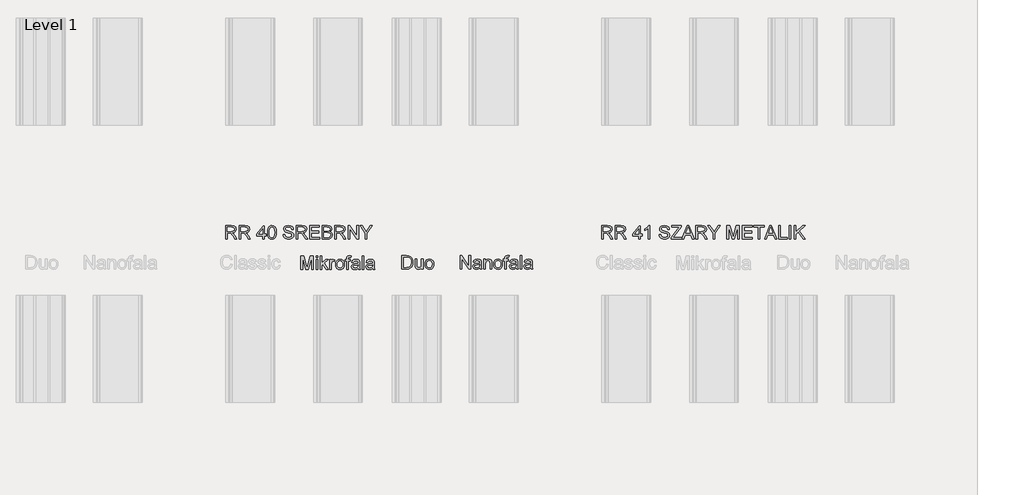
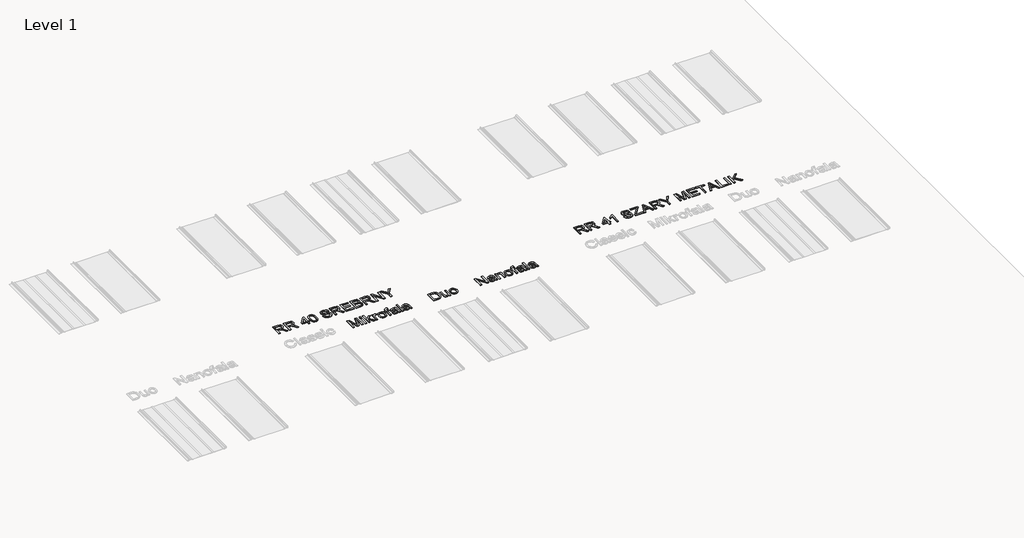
# One storey, part 15 of 22: 5 proxies.
"""IFC4 building model written with IfcOpenShell, lengths in millimetres."""

from ifc_helpers import new_model, si_unit, frame, origin, place, context, project, spatial, polyline, outline, extrude, element, save

model = new_model("IFC4")

# Units and contexts
model_context = context("Model", 3, world=origin())
ifc_project = project(units=[si_unit("LENGTHUNIT", "METRE", prefix="MILLI")], contexts=[model_context])

# Site, building, storey
site = spatial("IfcSite", under=ifc_project)
building = spatial("IfcBuilding", under=site)
storey = spatial("IfcBuildingStorey", under=building, Name="Level 1", Elevation=0.0)

# Proxies
placement = place(None, origin())
element("IfcBuildingElementProxy", 1, Name="150", ObjectType="150", at=placement, inside=storey, context=model_context, shape_type="SweptSolid", body=[
    extrude(outline(polyline([(504.3345041, -1975.281387), (504.3345041, -1824.5969218), (536.6345432, -1824.5969218), (567.5366308, -1930.8044538), (573.7906247, -1952.9877381), (580.5228653, -1928.9650438), (610.8363417, -1824.5969218), (643.2467454, -1824.5969218), (643.2467454, -1975.281387), (624.4111873, -1975.281387), (624.4111873, -1843.4324799), (586.55613, -1975.281387), (561.0619077, -1975.281387), (523.1700622, -1843.4324799), (523.1700622, -1975.281387), (504.3345041, -1975.281387)])), frame((0.0, 0.0, 600.0), z_axis=(0.0, 0.0, 1.0), x_axis=(1.0, 0.0, 0.0)), (0.0, 0.0, 1.0), 10.0),
    extrude(outline(polyline([(673.8545274, -1843.4324799), (673.8545274, -1824.5969218), (692.6900856, -1824.5969218), (692.6900856, -1843.4324799), (673.8545274, -1843.4324799)])), frame((0.0, 0.0, 600.0), z_axis=(0.0, 0.0, 1.0), x_axis=(1.0, 0.0, 0.0)), (0.0, 0.0, 1.0), 10.0),
    extrude(outline(polyline([(673.8545274, -1975.281387), (673.8545274, -1864.6224829), (692.6900856, -1864.6224829), (692.6900856, -1975.281387), (673.8545274, -1975.281387)])), frame((0.0, 0.0, 600.0), z_axis=(0.0, 0.0, 1.0), x_axis=(1.0, 0.0, 0.0)), (0.0, 0.0, 1.0), 10.0),
    extrude(outline(polyline([(720.9434228, -1975.281387), (720.9434228, -1824.5969218), (739.778981, -1824.5969218), (739.778981, -1905.5677489), (782.011834, -1864.6224829), (808.0578793, -1864.6224829), (765.2732032, -1906.0827837), (810.412324, -1975.281387), (788.4129807, -1975.281387), (751.771934, -1919.1793827), (739.778981, -1930.841242), (739.778981, -1975.281387), (720.9434228, -1975.281387)])), frame((0.0, 0.0, 600.0), z_axis=(0.0, 0.0, 1.0), x_axis=(1.0, 0.0, 0.0)), (0.0, 0.0, 1.0), 10.0),
    extrude(outline(polyline([(826.8934374, -1975.281387), (826.8934374, -1864.6224829), (843.3745508, -1864.6224829), (843.3745508, -1880.9932316), (855.0731983, -1865.9100698), (866.8454221, -1862.2680381), (885.7545567, -1868.0805736), (879.4637745, -1884.9663572), (866.2200227, -1881.1035962), (855.5698389, -1884.8192044), (848.7824161, -1895.1199003), (845.7289956, -1917.1192436), (845.7289956, -1975.281387), (826.8934374, -1975.281387)])), frame((0.0, 0.0, 600.0), z_axis=(0.0, 0.0, 1.0), x_axis=(1.0, 0.0, 0.0)), (0.0, 0.0, 1.0), 10.0),
    extrude(outline(polyline([(892.817891, -1919.9519349), (896.8921841, -1893.2712932), (909.1150633, -1874.5185085), (924.2166192, -1865.3306557), (942.2980193, -1862.2680381), (962.0854721, -1865.9974418), (977.8906023, -1877.185653), (988.251079, -1894.9497548), (991.7045713, -1918.4068306), (990.177861, -1937.4355268), (985.5977301, -1951.9208803), (978.097536, -1962.7688007), (967.8106357, -1970.8851972), (955.5923549, -1975.9481731), (942.2980193, -1977.6358318), (922.2714432, -1973.9202236), (906.4847071, -1962.7733992), (896.234595, -1944.6368168), (892.817891, -1919.9519349)]), holes=[polyline([(911.6534491, -1919.9151467), (913.8331499, -1936.9618787), (920.3722524, -1949.1065831), (930.2130958, -1956.376851), (942.2980193, -1958.8002736), (954.3277606, -1956.3630554), (964.1502098, -1949.0514008), (970.6893123, -1936.745748), (972.8690131, -1919.3265355), (970.6755167, -1902.7764443), (964.0950275, -1890.7972868), (954.2587827, -1883.5270189), (942.2980193, -1881.1035962), (930.2130958, -1883.5178218), (920.3722524, -1890.7604986), (913.8331499, -1902.8776118), (911.6534491, -1919.9151467)])]), frame((0.0, 0.0, 600.0), z_axis=(0.0, 0.0, 1.0), x_axis=(1.0, 0.0, 0.0)), (0.0, 0.0, 1.0), 10.0),
    extrude(outline(polyline([(1017.6034637, -1975.281387), (1017.6034637, -1883.458041), (1001.1223503, -1883.458041), (1001.1223503, -1864.6224829), (1017.6034637, -1864.6224829), (1017.6034637, -1853.4756584), (1019.5900265, -1837.7670972), (1029.2285348, -1826.5466964), (1048.2112457, -1822.242477), (1065.3913349, -1824.3026162), (1062.6322199, -1841.960952), (1051.7797011, -1841.0780352), (1039.9155067, -1844.2050321), (1036.4390219, -1855.8668914), (1036.4390219, -1864.6224829), (1057.6290248, -1864.6224829), (1057.6290248, -1883.458041), (1036.4390219, -1883.458041), (1036.4390219, -1975.281387), (1017.6034637, -1975.281387)])), frame((0.0, 0.0, 600.0), z_axis=(0.0, 0.0, 1.0), x_axis=(1.0, 0.0, 0.0)), (0.0, 0.0, 1.0), 10.0),
    extrude(outline(polyline([(1144.7434813, -1961.1547184), (1126.4781402, -1973.9202236), (1106.2998128, -1977.6358318), (1090.5590619, -1975.4009487), (1078.9477864, -1968.6962993), (1071.7878831, -1958.5151651), (1069.4012486, -1945.8508274), (1073.0064922, -1930.9516066), (1082.4794536, -1920.1358759), (1095.6680231, -1913.9554584), (1111.9651955, -1911.1227671), (1144.6331167, -1904.6480439), (1144.7434813, -1900.4541892), (1143.4466972, -1892.0480856), (1139.5563451, -1886.5482498), (1130.8559359, -1882.4647596), (1118.7342242, -1881.1035962), (1099.6779368, -1884.7272339), (1090.5912516, -1897.5847096), (1071.7556934, -1895.2302649), (1079.9042796, -1876.8361651), (1096.3118166, -1866.0572226), (1121.1622454, -1862.2680381), (1143.9893232, -1865.6157643), (1156.8835871, -1874.0218678), (1162.6593344, -1886.8057672), (1163.5790394, -1903.2868806), (1163.5790394, -1926.7209636), (1164.5355326, -1959.4440671), (1168.2879289, -1975.281387), (1149.4523708, -1975.281387), (1144.7434813, -1961.1547184)]), holes=[polyline([(1144.7434813, -1923.4836021), (1114.3564285, -1929.2593494), (1098.1512266, -1932.31277), (1090.8119808, -1937.2791769), (1088.2368068, -1944.5264522), (1093.8470072, -1954.7167835), (1110.3097265, -1958.8002736), (1129.3660139, -1954.2937192), (1141.6532725, -1943.386018), (1144.6331167, -1928.817891), (1144.7434813, -1923.4836021)])]), frame((0.0, 0.0, 600.0), z_axis=(0.0, 0.0, 1.0), x_axis=(1.0, 0.0, 0.0)), (0.0, 0.0, 1.0), 10.0),
    extrude(outline(polyline([(1189.4779319, -1975.281387), (1189.4779319, -1824.5969218), (1208.31349, -1824.5969218), (1208.31349, -1975.281387), (1189.4779319, -1975.281387)])), frame((0.0, 0.0, 600.0), z_axis=(0.0, 0.0, 1.0), x_axis=(1.0, 0.0, 0.0)), (0.0, 0.0, 1.0), 10.0),
    extrude(outline(polyline([(1307.2001703, -1961.1547184), (1288.9348293, -1973.9202236), (1268.7565018, -1977.6358318), (1253.015751, -1975.4009487), (1241.4044755, -1968.6962993), (1234.2445722, -1958.5151651), (1231.8579377, -1945.8508274), (1235.4631813, -1930.9516066), (1244.9361426, -1920.1358759), (1258.1247122, -1913.9554584), (1274.4218846, -1911.1227671), (1307.0898057, -1904.6480439), (1307.2001703, -1900.4541892), (1305.9033863, -1892.0480856), (1302.0130342, -1886.5482498), (1293.312625, -1882.4647596), (1281.1909133, -1881.1035962), (1262.1346259, -1884.7272339), (1253.0479406, -1897.5847096), (1234.2123825, -1895.2302649), (1242.3609687, -1876.8361651), (1258.7685057, -1866.0572226), (1283.6189344, -1862.2680381), (1306.4460122, -1865.6157643), (1319.3402762, -1874.0218678), (1325.1160235, -1886.8057672), (1326.0357285, -1903.2868806), (1326.0357285, -1926.7209636), (1326.9922217, -1959.4440671), (1330.744618, -1975.281387), (1311.9090599, -1975.281387), (1307.2001703, -1961.1547184)]), holes=[polyline([(1307.2001703, -1923.4836021), (1276.8131175, -1929.2593494), (1260.6079156, -1932.31277), (1253.2686698, -1937.2791769), (1250.6934959, -1944.5264522), (1256.3036963, -1954.7167835), (1272.7664156, -1958.8002736), (1291.8227029, -1954.2937192), (1304.1099616, -1943.386018), (1307.0898057, -1928.817891), (1307.2001703, -1923.4836021)])]), frame((0.0, 0.0, 600.0), z_axis=(0.0, 0.0, 1.0), x_axis=(1.0, 0.0, 0.0)), (0.0, 0.0, 1.0), 10.0),
])
element("IfcBuildingElementProxy", 2, Name="150", ObjectType="150", at=placement, inside=storey, context=model_context, shape_type="SweptSolid", body=[
    extrude(outline(polyline([(1632.4192925, -1972.1592468), (1632.4192925, -1821.4747816), (1684.4010184, -1821.4747816), (1711.2931923, -1823.6452853), (1733.4396884, -1834.4242278), (1743.8599459, -1845.902146), (1751.2819651, -1860.1759675), (1755.7241402, -1876.9697805), (1757.2048653, -1896.0076738), (1753.1949515, -1926.4131207), (1742.8942557, -1948.3572817), (1729.135469, -1962.0240978), (1711.1276454, -1969.5840728), (1686.902616, -1972.1592468), (1632.4192925, -1972.1592468)]), holes=[polyline([(1651.2548507, -1953.3236886), (1684.5849594, -1953.3236886), (1708.8283829, -1950.6013619), (1722.8078987, -1942.9126282), (1734.2674229, -1924.2058287), (1738.3693071, -1895.7133682), (1736.3597517, -1875.1855529), (1730.3310855, -1860.0288147), (1721.4237427, -1849.6177542), (1710.7781575, -1843.3269721), (1684.0699246, -1840.3103397), (1651.2548507, -1840.3103397), (1651.2548507, -1953.3236886)])]), frame((0.0, 0.0, 600.0), z_axis=(0.0, 0.0, 1.0), x_axis=(1.0, 0.0, 0.0)), (0.0, 0.0, 1.0), 10.0),
    extrude(outline(polyline([(1851.382656, -1972.1592468), (1851.382656, -1953.1397476), (1836.630588, -1969.1702056), (1817.3903597, -1974.5136916), (1799.6768416, -1970.7612952), (1787.4631594, -1961.3435161), (1781.8529589, -1947.4743649), (1780.749313, -1929.9631819), (1780.749313, -1861.5003426), (1799.5848711, -1861.5003426), (1799.5848711, -1921.0972259), (1800.7253053, -1940.300666), (1808.1749157, -1951.5762492), (1822.2096138, -1955.6781334), (1837.9365691, -1951.4842787), (1848.3292355, -1940.0615427), (1851.382656, -1919.0738749), (1851.382656, -1861.5003426), (1870.2182142, -1861.5003426), (1870.2182142, -1972.1592468), (1851.382656, -1972.1592468)])), frame((0.0, 0.0, 600.0), z_axis=(0.0, 0.0, 1.0), x_axis=(1.0, 0.0, 0.0)), (0.0, 0.0, 1.0), 10.0),
    extrude(outline(polyline([(1891.4082171, -1916.8297947), (1895.4825102, -1890.149153), (1907.7053895, -1871.3963683), (1922.8069454, -1862.2085155), (1940.8883455, -1859.1458979), (1960.6757983, -1862.8753016), (1976.4809285, -1874.0635128), (1986.8414052, -1891.8276146), (1990.2948974, -1915.2846903), (1988.7681871, -1934.3133865), (1984.1880563, -1948.7987401), (1976.6878621, -1959.6466604), (1966.4009618, -1967.7630569), (1954.1826811, -1972.8260329), (1940.8883455, -1974.5136916), (1920.8617693, -1970.7980834), (1905.0750332, -1959.651259), (1894.8249211, -1941.5146766), (1891.4082171, -1916.8297947)]), holes=[polyline([(1910.2437753, -1916.7930065), (1912.4234761, -1933.8397385), (1918.9625785, -1945.9844428), (1928.8034219, -1953.2547108), (1940.8883455, -1955.6781334), (1952.9180867, -1953.2409152), (1962.740536, -1945.9292605), (1969.2796384, -1933.6236078), (1971.4593393, -1916.2043953), (1969.2658429, -1899.6543041), (1962.6853537, -1887.6751466), (1952.8491088, -1880.4048787), (1940.8883455, -1877.981456), (1928.8034219, -1880.3956816), (1918.9625785, -1887.6383584), (1912.4234761, -1899.7554716), (1910.2437753, -1916.7930065)])]), frame((0.0, 0.0, 600.0), z_axis=(0.0, 0.0, 1.0), x_axis=(1.0, 0.0, 0.0)), (0.0, 0.0, 1.0), 10.0),
])
element("IfcBuildingElementProxy", 3, Name="150", ObjectType="150", at=placement, inside=storey, context=model_context, shape_type="SweptSolid", body=[
    extrude(outline(polyline([(2283.2193428, -1972.1592468), (2283.2193428, -1821.4747816), (2303.3792761, -1821.4747816), (2382.1060231, -1940.852489), (2382.1060231, -1821.4747816), (2400.9415812, -1821.4747816), (2400.9415812, -1972.1592468), (2380.7816479, -1972.1592468), (2302.0549009, -1852.7447512), (2302.0549009, -1972.1592468), (2283.2193428, -1972.1592468)])), frame((0.0, 0.0, 600.0), z_axis=(0.0, 0.0, 1.0), x_axis=(1.0, 0.0, 0.0)), (0.0, 0.0, 1.0), 10.0),
    extrude(outline(polyline([(2502.1827063, -1958.0325782), (2483.9173653, -1970.7980834), (2463.7390378, -1974.5136916), (2447.998287, -1972.2788084), (2436.3870115, -1965.5741591), (2429.2271081, -1955.3930249), (2426.8404737, -1942.7286872), (2430.4457173, -1927.8294664), (2439.9186786, -1917.0137357), (2453.1072482, -1910.8333182), (2469.4044205, -1908.0006268), (2502.0723417, -1901.5259037), (2502.1827063, -1897.332049), (2500.8859223, -1888.9259454), (2496.9955702, -1883.4261096), (2488.295161, -1879.3426194), (2476.1734493, -1877.981456), (2457.1171619, -1881.6050937), (2448.0304766, -1894.4625694), (2429.1949185, -1892.1081246), (2437.3435047, -1873.7140249), (2453.7510417, -1862.9350824), (2478.6014704, -1859.1458979), (2501.4285482, -1862.493624), (2514.3228122, -1870.8997276), (2520.0985595, -1883.683627), (2521.0182645, -1900.1647403), (2521.0182645, -1923.5988234), (2521.9747577, -1956.3219269), (2525.727154, -1972.1592468), (2506.8915959, -1972.1592468), (2502.1827063, -1958.0325782)]), holes=[polyline([(2502.1827063, -1920.3614619), (2471.7956535, -1926.1372092), (2455.5904516, -1929.1906298), (2448.2512058, -1934.1570367), (2445.6760319, -1941.404312), (2451.2862323, -1951.5946433), (2467.7489516, -1955.6781334), (2486.8052389, -1951.171579), (2499.0924976, -1940.2638778), (2502.0723417, -1925.6957508), (2502.1827063, -1920.3614619)])]), frame((0.0, 0.0, 600.0), z_axis=(0.0, 0.0, 1.0), x_axis=(1.0, 0.0, 0.0)), (0.0, 0.0, 1.0), 10.0),
    extrude(outline(polyline([(2546.9171569, -1972.1592468), (2546.9171569, -1861.5003426), (2565.7527151, -1861.5003426), (2565.7527151, -1876.9513864), (2580.1552952, -1863.59727), (2599.8185878, -1859.1458979), (2617.6056823, -1862.7327473), (2629.7457881, -1872.1505264), (2635.3927768, -1886.0012835), (2636.3860582, -1904.2114423), (2636.3860582, -1972.1592468), (2617.5505, -1972.1592468), (2617.5505, -1906.749828), (2615.3799962, -1890.0847737), (2607.7096566, -1881.2739999), (2594.7786045, -1877.981456), (2583.7467432, -1879.8300631), (2574.3427597, -1885.3758841), (2567.9002262, -1896.0904472), (2565.7527151, -1913.4452804), (2565.7527151, -1972.1592468), (2546.9171569, -1972.1592468)])), frame((0.0, 0.0, 600.0), z_axis=(0.0, 0.0, 1.0), x_axis=(1.0, 0.0, 0.0)), (0.0, 0.0, 1.0), 10.0),
    extrude(outline(polyline([(2657.5760611, -1916.8297947), (2661.6503542, -1890.149153), (2673.8732335, -1871.3963683), (2688.9747894, -1862.2085155), (2707.0561894, -1859.1458979), (2726.8436422, -1862.8753016), (2742.6487725, -1874.0635128), (2753.0092492, -1891.8276146), (2756.4627414, -1915.2846903), (2754.9360311, -1934.3133865), (2750.3559003, -1948.7987401), (2742.8557061, -1959.6466604), (2732.5688058, -1967.7630569), (2720.350525, -1972.8260329), (2707.0561894, -1974.5136916), (2687.0296133, -1970.7980834), (2671.2428772, -1959.651259), (2660.9927651, -1941.5146766), (2657.5760611, -1916.8297947)]), holes=[polyline([(2676.4116192, -1916.7930065), (2678.5913201, -1933.8397385), (2685.1304225, -1945.9844428), (2694.9712659, -1953.2547108), (2707.0561894, -1955.6781334), (2719.0859307, -1953.2409152), (2728.9083799, -1945.9292605), (2735.4474824, -1933.6236078), (2737.6271832, -1916.2043953), (2735.4336868, -1899.6543041), (2728.8531976, -1887.6751466), (2719.0169528, -1880.4048787), (2707.0561894, -1877.981456), (2694.9712659, -1880.3956816), (2685.1304225, -1887.6383584), (2678.5913201, -1899.7554716), (2676.4116192, -1916.7930065)])]), frame((0.0, 0.0, 600.0), z_axis=(0.0, 0.0, 1.0), x_axis=(1.0, 0.0, 0.0)), (0.0, 0.0, 1.0), 10.0),
    extrude(outline(polyline([(2782.3616338, -1972.1592468), (2782.3616338, -1880.3359008), (2765.8805205, -1880.3359008), (2765.8805205, -1861.5003426), (2782.3616338, -1861.5003426), (2782.3616338, -1850.3535182), (2784.3481966, -1834.644957), (2793.9867049, -1823.4245561), (2812.9694158, -1819.1203368), (2830.149505, -1821.180476), (2827.3903901, -1838.8388117), (2816.5378712, -1837.955895), (2804.6736769, -1841.0828919), (2801.197192, -1852.7447512), (2801.197192, -1861.5003426), (2822.3871949, -1861.5003426), (2822.3871949, -1880.3359008), (2801.197192, -1880.3359008), (2801.197192, -1972.1592468), (2782.3616338, -1972.1592468)])), frame((0.0, 0.0, 600.0), z_axis=(0.0, 0.0, 1.0), x_axis=(1.0, 0.0, 0.0)), (0.0, 0.0, 1.0), 10.0),
    extrude(outline(polyline([(2909.5016514, -1958.0325782), (2891.2363103, -1970.7980834), (2871.0579829, -1974.5136916), (2855.317232, -1972.2788084), (2843.7059565, -1965.5741591), (2836.5460532, -1955.3930249), (2834.1594188, -1942.7286872), (2837.7646623, -1927.8294664), (2847.2376237, -1917.0137357), (2860.4261932, -1910.8333182), (2876.7233656, -1908.0006268), (2909.3912868, -1901.5259037), (2909.5016514, -1897.332049), (2908.2048673, -1888.9259454), (2904.3145152, -1883.4261096), (2895.6141061, -1879.3426194), (2883.4923943, -1877.981456), (2864.436107, -1881.6050937), (2855.3494217, -1894.4625694), (2836.5138635, -1892.1081246), (2844.6624497, -1873.7140249), (2861.0699867, -1862.9350824), (2885.9204155, -1859.1458979), (2908.7474933, -1862.493624), (2921.6417572, -1870.8997276), (2927.4175045, -1883.683627), (2928.3372095, -1900.1647403), (2928.3372095, -1923.5988234), (2929.2937027, -1956.3219269), (2933.0460991, -1972.1592468), (2914.2105409, -1972.1592468), (2909.5016514, -1958.0325782)]), holes=[polyline([(2909.5016514, -1920.3614619), (2879.1145986, -1926.1372092), (2862.9093967, -1929.1906298), (2855.5701509, -1934.1570367), (2852.9949769, -1941.404312), (2858.6051773, -1951.5946433), (2875.0678966, -1955.6781334), (2894.124184, -1951.171579), (2906.4114426, -1940.2638778), (2909.3912868, -1925.6957508), (2909.5016514, -1920.3614619)])]), frame((0.0, 0.0, 600.0), z_axis=(0.0, 0.0, 1.0), x_axis=(1.0, 0.0, 0.0)), (0.0, 0.0, 1.0), 10.0),
    extrude(outline(polyline([(2954.236102, -1972.1592468), (2954.236102, -1821.4747816), (2973.0716601, -1821.4747816), (2973.0716601, -1972.1592468), (2954.236102, -1972.1592468)])), frame((0.0, 0.0, 600.0), z_axis=(0.0, 0.0, 1.0), x_axis=(1.0, 0.0, 0.0)), (0.0, 0.0, 1.0), 10.0),
    extrude(outline(polyline([(3071.9583404, -1958.0325782), (3053.6929994, -1970.7980834), (3033.514672, -1974.5136916), (3017.7739211, -1972.2788084), (3006.1626456, -1965.5741591), (2999.0027423, -1955.3930249), (2996.6161078, -1942.7286872), (3000.2213514, -1927.8294664), (3009.6943128, -1917.0137357), (3022.8828823, -1910.8333182), (3039.1800547, -1908.0006268), (3071.8479758, -1901.5259037), (3071.9583404, -1897.332049), (3070.6615564, -1888.9259454), (3066.7712043, -1883.4261096), (3058.0707951, -1879.3426194), (3045.9490834, -1877.981456), (3026.892796, -1881.6050937), (3017.8061108, -1894.4625694), (2998.9705526, -1892.1081246), (3007.1191388, -1873.7140249), (3023.5266758, -1862.9350824), (3048.3771046, -1859.1458979), (3071.2041824, -1862.493624), (3084.0984463, -1870.8997276), (3089.8741936, -1883.683627), (3090.7938986, -1900.1647403), (3090.7938986, -1923.5988234), (3091.7503918, -1956.3219269), (3095.5027881, -1972.1592468), (3076.66723, -1972.1592468), (3071.9583404, -1958.0325782)]), holes=[polyline([(3071.9583404, -1920.3614619), (3041.5712876, -1926.1372092), (3025.3660858, -1929.1906298), (3018.02684, -1934.1570367), (3015.451666, -1941.404312), (3021.0618664, -1951.5946433), (3037.5245857, -1955.6781334), (3056.580873, -1951.171579), (3068.8681317, -1940.2638778), (3071.8479758, -1925.6957508), (3071.9583404, -1920.3614619)])]), frame((0.0, 0.0, 600.0), z_axis=(0.0, 0.0, 1.0), x_axis=(1.0, 0.0, 0.0)), (0.0, 0.0, 1.0), 10.0),
])
element("IfcBuildingElementProxy", 4, Name="150 Blue", ObjectType="150 Blue", at=placement, inside=storey, context=model_context, shape_type="SweptSolid", body=[
    extrude(outline(polyline([(-336.4118342, -1635.6514112), (-336.4118342, -1484.966946), (-271.4806621, -1484.966946), (-241.3327325, -1489.032042), (-232.0529092, -1494.6606365), (-224.8516192, -1503.416228), (-220.2301016, -1514.2733454), (-218.6895957, -1526.2065176), (-221.2417771, -1541.0505561), (-228.8983211, -1553.3562089), (-241.8891541, -1562.3785148), (-260.4442022, -1567.3725129), (-249.7388361, -1575.4291286), (-234.4717333, -1594.8165097), (-209.3453931, -1635.6514112), (-231.2343718, -1635.6514112), (-250.8424821, -1604.4182298), (-265.0059389, -1583.7432617), (-274.9571469, -1573.9759947), (-283.9150735, -1570.3891452), (-294.8411687, -1569.7269577), (-317.576276, -1569.7269577), (-317.576276, -1635.6514112), (-336.4118342, -1635.6514112)]), holes=[polyline([(-317.576276, -1550.8913995), (-275.4169994, -1550.8913995), (-253.9142968, -1548.224255), (-241.7006145, -1539.6893927), (-237.5251539, -1526.9054934), (-239.5163152, -1517.7176406), (-245.4897991, -1510.3140154), (-255.7675023, -1505.4303819), (-270.6713217, -1503.8025041), (-317.576276, -1503.8025041), (-317.576276, -1550.8913995)])]), frame((0.0, 0.0, 600.0), z_axis=(0.0, 0.0, 1.0), x_axis=(1.0, 0.0, 0.0)), (0.0, 0.0, 1.0), 10.0),
    extrude(outline(polyline([(-185.727369, -1635.6514112), (-185.727369, -1484.966946), (-120.7961968, -1484.966946), (-90.6482673, -1489.032042), (-81.368444, -1494.6606365), (-74.1671539, -1503.416228), (-69.5456364, -1514.2733454), (-68.0051305, -1526.2065176), (-70.5573119, -1541.0505561), (-78.2138559, -1553.3562089), (-91.2046888, -1562.3785148), (-109.759737, -1567.3725129), (-99.0543709, -1575.4291286), (-83.7872681, -1594.8165097), (-58.6609278, -1635.6514112), (-80.5499066, -1635.6514112), (-100.1580169, -1604.4182298), (-114.3214737, -1583.7432617), (-124.2726817, -1573.9759947), (-133.2306083, -1570.3891452), (-144.1567035, -1569.7269577), (-166.8918108, -1569.7269577), (-166.8918108, -1635.6514112), (-185.727369, -1635.6514112)]), holes=[polyline([(-166.8918108, -1550.8913995), (-124.7325342, -1550.8913995), (-103.2298316, -1548.224255), (-91.0161493, -1539.6893927), (-86.8406887, -1526.9054934), (-88.83185, -1517.7176406), (-94.8053339, -1510.3140154), (-105.0830371, -1505.4303819), (-119.9868564, -1503.8025041), (-166.8918108, -1503.8025041), (-166.8918108, -1550.8913995)])]), frame((0.0, 0.0, 600.0), z_axis=(0.0, 0.0, 1.0), x_axis=(1.0, 0.0, 0.0)), (0.0, 0.0, 1.0), 10.0),
    extrude(outline(polyline([(77.9704452, -1635.6514112), (77.9704452, -1600.3347397), (9.6915469, -1600.3347397), (9.6915469, -1581.4991815), (82.6793347, -1487.3213907), (96.8060033, -1487.3213907), (96.8060033, -1581.4991815), (115.6415615, -1581.4991815), (115.6415615, -1600.3347397), (96.8060033, -1600.3347397), (96.8060033, -1635.6514112), (77.9704452, -1635.6514112)]), holes=[polyline([(77.9704452, -1581.4991815), (77.9704452, -1523.3002499), (32.8681126, -1581.4991815), (77.9704452, -1581.4991815)])]), frame((0.0, 0.0, 600.0), z_axis=(0.0, 0.0, 1.0), x_axis=(1.0, 0.0, 0.0)), (0.0, 0.0, 1.0), 10.0),
    extrude(outline(polyline([(132.1226749, -1561.5231892), (133.5068309, -1537.4039259), (137.6592989, -1518.168296), (144.5386922, -1503.5219941), (154.1036241, -1493.1707145), (166.4230724, -1487.0178881), (181.566015, -1484.966946), (203.5653583, -1489.8229883), (218.7588847, -1503.8208982), (227.5880526, -1526.1145471), (231.0093552, -1561.5231892), (229.6389947, -1585.5044967), (225.5279134, -1604.6941413), (218.6899068, -1619.3542388), (209.1387705, -1629.7469052), (196.7917311, -1635.9411183), (181.566015, -1638.005856), (161.9946929, -1634.4190065), (147.1322603, -1623.6584581), (135.8750712, -1598.1734329), (132.1226749, -1561.5231892)]), holes=[polyline([(150.958233, -1561.486401), (153.165525, -1591.1146971), (159.7874009, -1608.2625966), (169.6466384, -1616.4433725), (181.566015, -1619.1702978), (193.4853917, -1616.4341755), (203.3446291, -1608.2258084), (209.966505, -1591.0687119), (212.173797, -1561.486401), (210.0400814, -1532.5248909), (203.6389347, -1515.2436342), (193.7980913, -1506.6627866), (181.3452858, -1503.8025041), (169.5546679, -1506.3224958), (160.0817065, -1513.8824708), (153.2391014, -1532.2397823), (150.958233, -1561.486401)])]), frame((0.0, 0.0, 600.0), z_axis=(0.0, 0.0, 1.0), x_axis=(1.0, 0.0, 0.0)), (0.0, 0.0, 1.0), 10.0),
    extrude(outline(polyline([(306.3515878, -1583.8536263), (325.1871459, -1583.8536263), (331.2571988, -1602.7075785), (346.0828432, -1614.6269552), (368.6707978, -1619.1702978), (388.3524845, -1615.7306011), (401.0628074, -1606.2760339), (405.2382681, -1593.6392873), (402.1112711, -1581.8854576), (389.3089777, -1573.3322012), (361.8833749, -1566.1401082), (332.3608448, -1556.8510878), (316.3395839, -1542.8347838), (311.0604773, -1524.1095903), (312.6929537, -1513.0777289), (317.5903827, -1502.7908286), (325.6240058, -1494.0720253), (336.6650642, -1487.744455), (364.5873076, -1482.6125012), (394.3857492, -1487.9835783), (405.8084852, -1494.6146513), (414.251377, -1503.7657159), (419.5948629, -1514.8665551), (421.7193815, -1527.3469518), (402.8838233, -1527.3469518), (399.4257326, -1516.1081569), (392.2152454, -1507.9963589), (380.9488593, -1503.0851342), (365.3230716, -1501.4480593), (349.3294019, -1503.0667401), (338.3573214, -1507.9227825), (332.0113569, -1515.0688902), (329.8960355, -1523.5577673), (331.3951546, -1530.7958455), (335.892512, -1536.6175781), (366.6474468, -1547.1390031), (399.9775555, -1556.5935704), (410.7151113, -1563.4269785), (418.2061084, -1571.8606732), (422.6068968, -1581.8026841), (424.0738262, -1593.1610407), (422.3861676, -1604.7723162), (417.3231916, -1615.6938129), (409.091832, -1625.0931979), (397.8990223, -1632.1381381), (384.4391398, -1636.5389265), (369.4065617, -1638.005856), (350.9526812, -1636.4239634), (335.7637533, -1631.6782856), (323.6650342, -1623.7504286), (314.4817799, -1612.6219983), (308.5864709, -1599.0655468), (306.3515878, -1583.8536263)])), frame((0.0, 0.0, 600.0), z_axis=(0.0, 0.0, 1.0), x_axis=(1.0, 0.0, 0.0)), (0.0, 0.0, 1.0), 10.0),
    extrude(outline(polyline([(452.3271635, -1635.6514112), (452.3271635, -1484.966946), (517.2583356, -1484.966946), (547.4062651, -1489.032042), (556.6860884, -1494.6606365), (563.8873785, -1503.416228), (568.5088961, -1514.2733454), (570.0494019, -1526.2065176), (567.4972206, -1541.0505561), (559.8406765, -1553.3562089), (546.8498436, -1562.3785148), (528.2947955, -1567.3725129), (539.0001615, -1575.4291286), (554.2672643, -1594.8165097), (579.3936046, -1635.6514112), (557.5046259, -1635.6514112), (537.8965155, -1604.4182298), (523.7330587, -1583.7432617), (513.7818508, -1573.9759947), (504.8239242, -1570.3891452), (493.8978289, -1569.7269577), (471.1627216, -1569.7269577), (471.1627216, -1635.6514112), (452.3271635, -1635.6514112)]), holes=[polyline([(471.1627216, -1550.8913995), (513.3219983, -1550.8913995), (534.8247009, -1548.224255), (547.0383831, -1539.6893927), (551.2138438, -1526.9054934), (549.2226825, -1517.7176406), (543.2491986, -1510.3140154), (532.9714953, -1505.4303819), (518.067676, -1503.8025041), (471.1627216, -1503.8025041), (471.1627216, -1550.8913995)])]), frame((0.0, 0.0, 600.0), z_axis=(0.0, 0.0, 1.0), x_axis=(1.0, 0.0, 0.0)), (0.0, 0.0, 1.0), 10.0),
    extrude(outline(polyline([(603.0116287, -1635.6514112), (603.0116287, -1484.966946), (711.3160881, -1484.966946), (711.3160881, -1503.8025041), (621.8471868, -1503.8025041), (621.8471868, -1548.5369547), (706.6071985, -1548.5369547), (706.6071985, -1567.3725129), (621.8471868, -1567.3725129), (621.8471868, -1616.815853), (713.6705328, -1616.815853), (713.6705328, -1635.6514112), (603.0116287, -1635.6514112)])), frame((0.0, 0.0, 600.0), z_axis=(0.0, 0.0, 1.0), x_axis=(1.0, 0.0, 0.0)), (0.0, 0.0, 1.0), 10.0),
    extrude(outline(polyline([(741.9238701, -1635.6514112), (741.9238701, -1484.966946), (799.4238259, -1484.966946), (827.5851926, -1489.399924), (837.048957, -1495.02392), (844.2134588, -1503.0299519), (850.2283294, -1522.3069685), (845.169952, -1539.9101219), (829.8844551, -1553.2458443), (840.5576315, -1558.8192565), (848.4441018, -1567.2989365), (853.3139397, -1578.1238642), (854.937219, -1590.7330196), (850.5042409, -1610.9849234), (839.5229634, -1625.4058976), (823.1338205, -1633.0578431), (798.9823675, -1635.6514112), (741.9238701, -1635.6514112)]), holes=[polyline([(760.7594282, -1546.18251), (795.1563948, -1546.18251), (815.2427517, -1544.5638292), (827.3276752, -1537.5924654), (831.3927713, -1525.3236008), (827.6035867, -1513.0363422), (816.7510679, -1505.7706728), (792.5444326, -1503.8025041), (760.7594282, -1503.8025041), (760.7594282, -1546.18251)]), polyline([(760.7594282, -1616.815853), (799.3870377, -1616.815853), (813.3665535, -1616.080089), (825.1939597, -1611.9782048), (833.0298462, -1603.6088894), (836.1016608, -1590.9169606), (832.4964173, -1576.2752572), (820.8161639, -1567.5380598), (797.5476277, -1565.0180681), (760.7594282, -1565.0180681), (760.7594282, -1616.815853)])]), frame((0.0, 0.0, 600.0), z_axis=(0.0, 0.0, 1.0), x_axis=(1.0, 0.0, 0.0)), (0.0, 0.0, 1.0), 10.0),
    extrude(outline(polyline([(880.8361114, -1635.6514112), (880.8361114, -1484.966946), (945.7672836, -1484.966946), (975.9152131, -1489.032042), (985.1950364, -1494.6606365), (992.3963265, -1503.416228), (997.017844, -1514.2733454), (998.5583499, -1526.2065176), (996.0061686, -1541.0505561), (988.3496245, -1553.3562089), (975.3587916, -1562.3785148), (956.8037434, -1567.3725129), (967.5091095, -1575.4291286), (982.7762123, -1594.8165097), (1007.9025526, -1635.6514112), (986.0135739, -1635.6514112), (966.4054635, -1604.4182298), (952.2420067, -1583.7432617), (942.2907987, -1573.9759947), (933.3328722, -1570.3891452), (922.4067769, -1569.7269577), (899.6716696, -1569.7269577), (899.6716696, -1635.6514112), (880.8361114, -1635.6514112)]), holes=[polyline([(899.6716696, -1550.8913995), (941.8309462, -1550.8913995), (963.3336489, -1548.224255), (975.5473311, -1539.6893927), (979.7227917, -1526.9054934), (977.7316304, -1517.7176406), (971.7581465, -1510.3140154), (961.4804433, -1505.4303819), (946.576624, -1503.8025041), (899.6716696, -1503.8025041), (899.6716696, -1550.8913995)])]), frame((0.0, 0.0, 600.0), z_axis=(0.0, 0.0, 1.0), x_axis=(1.0, 0.0, 0.0)), (0.0, 0.0, 1.0), 10.0),
    extrude(outline(polyline([(1031.5205767, -1635.6514112), (1031.5205767, -1484.966946), (1051.68051, -1484.966946), (1130.407257, -1604.3446534), (1130.407257, -1484.966946), (1149.2428151, -1484.966946), (1149.2428151, -1635.6514112), (1129.0828818, -1635.6514112), (1050.3561348, -1516.2369156), (1050.3561348, -1635.6514112), (1031.5205767, -1635.6514112)])), frame((0.0, 0.0, 600.0), z_axis=(0.0, 0.0, 1.0), x_axis=(1.0, 0.0, 0.0)), (0.0, 0.0, 1.0), 10.0),
    extrude(outline(polyline([(1224.5850477, -1635.6514112), (1224.5850477, -1571.823885), (1165.7239285, -1484.966946), (1187.9072128, -1484.966946), (1219.3243352, -1531.3568656), (1235.4007784, -1555.048466), (1251.550798, -1529.6646084), (1280.0616526, -1484.966946), (1302.2817251, -1484.966946), (1243.4206059, -1571.823885), (1243.4206059, -1635.6514112), (1224.5850477, -1635.6514112)])), frame((0.0, 0.0, 600.0), z_axis=(0.0, 0.0, 1.0), x_axis=(1.0, 0.0, 0.0)), (0.0, 0.0, 1.0), 10.0),
])
element("IfcBuildingElementProxy", 5, Name="150 Blue", ObjectType="150 Blue", at=placement, inside=storey, context=model_context, shape_type="SweptSolid", body=[
    extrude(outline(polyline([(3863.5881658, -1635.6514112), (3863.5881658, -1484.966946), (3928.5193379, -1484.966946), (3958.6672675, -1489.032042), (3967.9470908, -1494.6606365), (3975.1483808, -1503.416228), (3979.7698984, -1514.2733454), (3981.3104043, -1526.2065176), (3978.7582229, -1541.0505561), (3971.1016789, -1553.3562089), (3958.1108459, -1562.3785148), (3939.5557978, -1567.3725129), (3950.2611639, -1575.4291286), (3965.5282667, -1594.8165097), (3990.6546069, -1635.6514112), (3968.7656282, -1635.6514112), (3949.1575179, -1604.4182298), (3934.9940611, -1583.7432617), (3925.0428531, -1573.9759947), (3916.0849265, -1570.3891452), (3905.1588313, -1569.7269577), (3882.423724, -1569.7269577), (3882.423724, -1635.6514112), (3863.5881658, -1635.6514112)]), holes=[polyline([(3882.423724, -1550.8913995), (3924.5830006, -1550.8913995), (3946.0857032, -1548.224255), (3958.2993855, -1539.6893927), (3962.4748461, -1526.9054934), (3960.4836848, -1517.7176406), (3954.5102009, -1510.3140154), (3944.2324977, -1505.4303819), (3929.3286783, -1503.8025041), (3882.423724, -1503.8025041), (3882.423724, -1550.8913995)])]), frame((0.0, 0.0, 600.0), z_axis=(0.0, 0.0, 1.0), x_axis=(1.0, 0.0, 0.0)), (0.0, 0.0, 1.0), 10.0),
    extrude(outline(polyline([(4014.272631, -1635.6514112), (4014.272631, -1484.966946), (4079.2038032, -1484.966946), (4109.3517327, -1489.032042), (4118.631556, -1494.6606365), (4125.8328461, -1503.416228), (4130.4543636, -1514.2733454), (4131.9948695, -1526.2065176), (4129.4426881, -1541.0505561), (4121.7861441, -1553.3562089), (4108.7953112, -1562.3785148), (4090.240263, -1567.3725129), (4100.9456291, -1575.4291286), (4116.2127319, -1594.8165097), (4141.3390722, -1635.6514112), (4119.4500934, -1635.6514112), (4099.8419831, -1604.4182298), (4085.6785263, -1583.7432617), (4075.7273183, -1573.9759947), (4066.7693917, -1570.3891452), (4055.8432965, -1569.7269577), (4033.1081892, -1569.7269577), (4033.1081892, -1635.6514112), (4014.272631, -1635.6514112)]), holes=[polyline([(4033.1081892, -1550.8913995), (4075.2674658, -1550.8913995), (4096.7701684, -1548.224255), (4108.9838507, -1539.6893927), (4113.1593113, -1526.9054934), (4111.16815, -1517.7176406), (4105.1946661, -1510.3140154), (4094.9169629, -1505.4303819), (4080.0131436, -1503.8025041), (4033.1081892, -1503.8025041), (4033.1081892, -1550.8913995)])]), frame((0.0, 0.0, 600.0), z_axis=(0.0, 0.0, 1.0), x_axis=(1.0, 0.0, 0.0)), (0.0, 0.0, 1.0), 10.0),
    extrude(outline(polyline([(4277.9704452, -1635.6514112), (4277.9704452, -1600.3347397), (4209.6915469, -1600.3347397), (4209.6915469, -1581.4991815), (4282.6793347, -1487.3213907), (4296.8060033, -1487.3213907), (4296.8060033, -1581.4991815), (4315.6415615, -1581.4991815), (4315.6415615, -1600.3347397), (4296.8060033, -1600.3347397), (4296.8060033, -1635.6514112), (4277.9704452, -1635.6514112)]), holes=[polyline([(4277.9704452, -1581.4991815), (4277.9704452, -1523.3002499), (4232.8681126, -1581.4991815), (4277.9704452, -1581.4991815)])]), frame((0.0, 0.0, 600.0), z_axis=(0.0, 0.0, 1.0), x_axis=(1.0, 0.0, 0.0)), (0.0, 0.0, 1.0), 10.0),
    extrude(outline(polyline([(4402.7560179, -1635.6514112), (4383.9204598, -1635.6514112), (4383.9204598, -1518.2234783), (4366.078183, -1530.9338013), (4346.2493435, -1540.4435508), (4346.2493435, -1522.6380623), (4373.8588872, -1505.0165147), (4390.6159121, -1484.966946), (4402.7560179, -1484.966946), (4402.7560179, -1635.6514112)])), frame((0.0, 0.0, 600.0), z_axis=(0.0, 0.0, 1.0), x_axis=(1.0, 0.0, 0.0)), (0.0, 0.0, 1.0), 10.0),
    extrude(outline(polyline([(4506.3515878, -1583.8536263), (4525.1871459, -1583.8536263), (4531.2571988, -1602.7075785), (4546.0828432, -1614.6269552), (4568.6707978, -1619.1702978), (4588.3524845, -1615.7306011), (4601.0628074, -1606.2760339), (4605.2382681, -1593.6392873), (4602.1112711, -1581.8854576), (4589.3089777, -1573.3322012), (4561.8833749, -1566.1401082), (4532.3608448, -1556.8510878), (4516.3395839, -1542.8347838), (4511.0604773, -1524.1095903), (4512.6929537, -1513.0777289), (4517.5903827, -1502.7908286), (4525.6240058, -1494.0720253), (4536.6650642, -1487.744455), (4564.5873076, -1482.6125012), (4594.3857492, -1487.9835783), (4605.8084852, -1494.6146513), (4614.251377, -1503.7657159), (4619.5948629, -1514.8665551), (4621.7193815, -1527.3469518), (4602.8838233, -1527.3469518), (4599.4257326, -1516.1081569), (4592.2152454, -1507.9963589), (4580.9488593, -1503.0851342), (4565.3230716, -1501.4480593), (4549.3294019, -1503.0667401), (4538.3573214, -1507.9227825), (4532.0113569, -1515.0688902), (4529.8960355, -1523.5577673), (4531.3951546, -1530.7958455), (4535.892512, -1536.6175781), (4566.6474468, -1547.1390031), (4599.9775555, -1556.5935704), (4610.7151113, -1563.4269785), (4618.2061084, -1571.8606732), (4622.6068968, -1581.8026841), (4624.0738262, -1593.1610407), (4622.3861676, -1604.7723162), (4617.3231916, -1615.6938129), (4609.091832, -1625.0931979), (4597.8990223, -1632.1381381), (4584.4391398, -1636.5389265), (4569.4065617, -1638.005856), (4550.9526812, -1636.4239634), (4535.7637533, -1631.6782856), (4523.6650342, -1623.7504286), (4514.4817799, -1612.6219983), (4508.5864709, -1599.0655468), (4506.3515878, -1583.8536263)])), frame((0.0, 0.0, 600.0), z_axis=(0.0, 0.0, 1.0), x_axis=(1.0, 0.0, 0.0)), (0.0, 0.0, 1.0), 10.0),
    extrude(outline(polyline([(4640.5549396, -1635.6514112), (4640.5549396, -1616.1168772), (4717.5894294, -1521.7183573), (4732.2311328, -1503.8025041), (4649.9727187, -1503.8025041), (4649.9727187, -1484.966946), (4755.9227333, -1484.966946), (4755.9227333, -1503.8025041), (4671.60418, -1607.1037684), (4663.6579289, -1616.815853), (4758.2771781, -1616.815853), (4758.2771781, -1635.6514112), (4640.5549396, -1635.6514112)])), frame((0.0, 0.0, 600.0), z_axis=(0.0, 0.0, 1.0), x_axis=(1.0, 0.0, 0.0)), (0.0, 0.0, 1.0), 10.0),
    extrude(outline(polyline([(4761.955998, -1635.6514112), (4822.1047042, -1484.966946), (4838.1443592, -1484.966946), (4898.2562772, -1635.6514112), (4878.3538613, -1635.6514112), (4861.1369839, -1588.5625158), (4799.0385031, -1588.5625158), (4781.8216258, -1635.6514112), (4761.955998, -1635.6514112)]), holes=[polyline([(4805.9546846, -1569.7269577), (4854.2575906, -1569.7269577), (4840.6459568, -1532.6812407), (4830.0877435, -1503.8025041), (4820.7067526, -1529.4438792), (4805.9546846, -1569.7269577)])]), frame((0.0, 0.0, 600.0), z_axis=(0.0, 0.0, 1.0), x_axis=(1.0, 0.0, 0.0)), (0.0, 0.0, 1.0), 10.0),
    extrude(outline(polyline([(4918.3794224, -1635.6514112), (4918.3794224, -1484.966946), (4983.3105945, -1484.966946), (5013.458524, -1489.032042), (5022.7383474, -1494.6606365), (5029.9396374, -1503.416228), (5034.561155, -1514.2733454), (5036.1016608, -1526.2065176), (5033.5494795, -1541.0505561), (5025.8929355, -1553.3562089), (5012.9021025, -1562.3785148), (4994.3470544, -1567.3725129), (5005.0524204, -1575.4291286), (5020.3195232, -1594.8165097), (5045.4458635, -1635.6514112), (5023.5568848, -1635.6514112), (5003.9487744, -1604.4182298), (4989.7853176, -1583.7432617), (4979.8341097, -1573.9759947), (4970.8761831, -1570.3891452), (4959.9500878, -1569.7269577), (4937.2149805, -1569.7269577), (4937.2149805, -1635.6514112), (4918.3794224, -1635.6514112)]), holes=[polyline([(4937.2149805, -1550.8913995), (4979.3742572, -1550.8913995), (5000.8769598, -1548.224255), (5013.090642, -1539.6893927), (5017.2661027, -1526.9054934), (5015.2749414, -1517.7176406), (5009.3014575, -1510.3140154), (4999.0237542, -1505.4303819), (4984.1199349, -1503.8025041), (4937.2149805, -1503.8025041), (4937.2149805, -1550.8913995)])]), frame((0.0, 0.0, 600.0), z_axis=(0.0, 0.0, 1.0), x_axis=(1.0, 0.0, 0.0)), (0.0, 0.0, 1.0), 10.0),
    extrude(outline(polyline([(5111.4438934, -1635.6514112), (5111.4438934, -1571.823885), (5052.5827742, -1484.966946), (5074.7660585, -1484.966946), (5106.1831809, -1531.3568656), (5122.2596241, -1555.048466), (5138.4096437, -1529.6646084), (5166.9204983, -1484.966946), (5189.1405708, -1484.966946), (5130.2794516, -1571.823885), (5130.2794516, -1635.6514112), (5111.4438934, -1635.6514112)])), frame((0.0, 0.0, 600.0), z_axis=(0.0, 0.0, 1.0), x_axis=(1.0, 0.0, 0.0)), (0.0, 0.0, 1.0), 10.0),
    extrude(outline(polyline([(5264.4828034, -1635.6514112), (5264.4828034, -1484.966946), (5296.7828426, -1484.966946), (5327.6849302, -1591.174478), (5333.9389241, -1613.3577623), (5340.6711646, -1589.335068), (5370.984641, -1484.966946), (5403.3950448, -1484.966946), (5403.3950448, -1635.6514112), (5384.5594867, -1635.6514112), (5384.5594867, -1503.8025041), (5346.7044294, -1635.6514112), (5321.2102071, -1635.6514112), (5283.3183616, -1503.8025041), (5283.3183616, -1635.6514112), (5264.4828034, -1635.6514112)])), frame((0.0, 0.0, 600.0), z_axis=(0.0, 0.0, 1.0), x_axis=(1.0, 0.0, 0.0)), (0.0, 0.0, 1.0), 10.0),
    extrude(outline(polyline([(5436.3572716, -1635.6514112), (5436.3572716, -1484.966946), (5544.661731, -1484.966946), (5544.661731, -1503.8025041), (5455.1928297, -1503.8025041), (5455.1928297, -1548.5369547), (5539.9528414, -1548.5369547), (5539.9528414, -1567.3725129), (5455.1928297, -1567.3725129), (5455.1928297, -1616.815853), (5547.0161757, -1616.815853), (5547.0161757, -1635.6514112), (5436.3572716, -1635.6514112)])), frame((0.0, 0.0, 600.0), z_axis=(0.0, 0.0, 1.0), x_axis=(1.0, 0.0, 0.0)), (0.0, 0.0, 1.0), 10.0),
    extrude(outline(polyline([(5612.9406293, -1635.6514112), (5612.9406293, -1503.8025041), (5563.4972891, -1503.8025041), (5563.4972891, -1484.966946), (5681.2195276, -1484.966946), (5681.2195276, -1503.8025041), (5631.7761874, -1503.8025041), (5631.7761874, -1635.6514112), (5612.9406293, -1635.6514112)])), frame((0.0, 0.0, 600.0), z_axis=(0.0, 0.0, 1.0), x_axis=(1.0, 0.0, 0.0)), (0.0, 0.0, 1.0), 10.0),
    extrude(outline(polyline([(5684.8983475, -1635.6514112), (5745.0470537, -1484.966946), (5761.0867087, -1484.966946), (5821.1986267, -1635.6514112), (5801.2962108, -1635.6514112), (5784.0793334, -1588.5625158), (5721.9808526, -1588.5625158), (5704.7639753, -1635.6514112), (5684.8983475, -1635.6514112)]), holes=[polyline([(5728.8970341, -1569.7269577), (5777.1999401, -1569.7269577), (5763.5883063, -1532.6812407), (5753.030093, -1503.8025041), (5743.6491021, -1529.4438792), (5728.8970341, -1569.7269577)])]), frame((0.0, 0.0, 600.0), z_axis=(0.0, 0.0, 1.0), x_axis=(1.0, 0.0, 0.0)), (0.0, 0.0, 1.0), 10.0),
    extrude(outline(polyline([(5841.3217719, -1635.6514112), (5841.3217719, -1484.966946), (5860.15733, -1484.966946), (5860.15733, -1616.815853), (5935.4995626, -1616.815853), (5935.4995626, -1635.6514112), (5841.3217719, -1635.6514112)])), frame((0.0, 0.0, 600.0), z_axis=(0.0, 0.0, 1.0), x_axis=(1.0, 0.0, 0.0)), (0.0, 0.0, 1.0), 10.0),
    extrude(outline(polyline([(5959.0440103, -1635.6514112), (5959.0440103, -1484.966946), (5977.8795685, -1484.966946), (5977.8795685, -1635.6514112), (5959.0440103, -1635.6514112)])), frame((0.0, 0.0, 600.0), z_axis=(0.0, 0.0, 1.0), x_axis=(1.0, 0.0, 0.0)), (0.0, 0.0, 1.0), 10.0),
    extrude(outline(polyline([(6015.5506848, -1635.6514112), (6015.5506848, -1484.966946), (6034.3862429, -1484.966946), (6034.3862429, -1558.727286), (6111.6414619, -1484.966946), (6137.9818128, -1484.966946), (6073.0874288, -1546.918274), (6140.3362575, -1635.6514112), (6117.3068446, -1635.6514112), (6059.7333124, -1559.646991), (6034.3862429, -1583.8536263), (6034.3862429, -1635.6514112), (6015.5506848, -1635.6514112)])), frame((0.0, 0.0, 600.0), z_axis=(0.0, 0.0, 1.0), x_axis=(1.0, 0.0, 0.0)), (0.0, 0.0, 1.0), 10.0),
])

save(model, "model.ifc")
